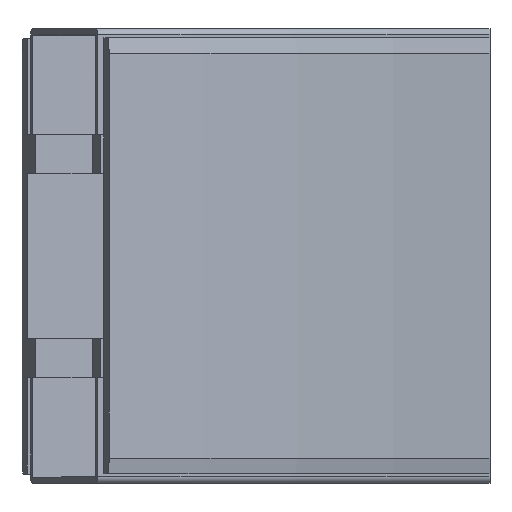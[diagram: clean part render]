
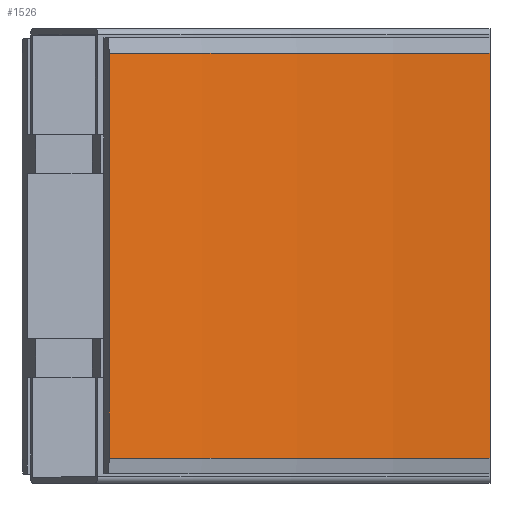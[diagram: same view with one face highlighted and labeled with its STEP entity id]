
A CAD part, top view. The second image highlights one B-rep face of the part: STEP entity #1526.
In plain terms, the highlighted cylindrical face has radius 357.5 mm (diameter 715 mm), a partial arc.
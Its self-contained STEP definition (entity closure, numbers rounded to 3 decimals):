
#80=CYLINDRICAL_SURFACE('',#1643,357.5);
#149=FACE_OUTER_BOUND('',#236,.T.);
#236=EDGE_LOOP('',(#1052,#1053,#1054,#1055));
#323=CIRCLE('',#1633,357.5);
#328=CIRCLE('',#1642,357.5);
#400=LINE('',#2215,#526);
#401=LINE('',#2216,#527);
#526=VECTOR('',#1808,10.);
#527=VECTOR('',#1809,10.);
#643=VERTEX_POINT('',#2183);
#644=VERTEX_POINT('',#2185);
#652=VERTEX_POINT('',#2209);
#653=VERTEX_POINT('',#2211);
#799=EDGE_CURVE('',#643,#644,#323,.T.);
#813=EDGE_CURVE('',#652,#653,#328,.T.);
#814=EDGE_CURVE('',#643,#652,#400,.T.);
#815=EDGE_CURVE('',#644,#653,#401,.T.);
#1052=ORIENTED_EDGE('',*,*,#814,.T.);
#1053=ORIENTED_EDGE('',*,*,#813,.T.);
#1054=ORIENTED_EDGE('',*,*,#815,.F.);
#1055=ORIENTED_EDGE('',*,*,#799,.F.);
#1526=ADVANCED_FACE('',(#149),#80,.F.);
#1633=AXIS2_PLACEMENT_3D('',#2186,#1777,#1778);
#1642=AXIS2_PLACEMENT_3D('',#2213,#1804,#1805);
#1643=AXIS2_PLACEMENT_3D('',#2214,#1806,#1807);
#1777=DIRECTION('center_axis',(0.,1.,0.));
#1778=DIRECTION('ref_axis',(0.,0.,
-1.));
#1804=DIRECTION('center_axis',(0.,1.,0.));
#1805=DIRECTION('ref_axis',(0.,0.,
-1.));
#1806=DIRECTION('center_axis',(0.,1.,0.));
#1807=DIRECTION('ref_axis',(0.,0.,-1.));
#1808=DIRECTION('',(0.,1.,0.));
#1809=DIRECTION('',(0.,1.,0.));
#2183=CARTESIAN_POINT('',(0.,-65.,42.5));
#2185=CARTESIAN_POINT('',(-122.272,-65.,64.06));
#2186=CARTESIAN_POINT('Origin',(0.,-65.,400.));
#2209=CARTESIAN_POINT('',(0.,65.,42.5));
#2211=CARTESIAN_POINT('',(-122.272,65.,64.06));
#2213=CARTESIAN_POINT('Origin',(0.,65.,400.));
#2214=CARTESIAN_POINT('Origin',(0.,0.,400.));
#2215=CARTESIAN_POINT('',(0.,-65.,42.5));
#2216=CARTESIAN_POINT('',(-122.272,-65.,64.06));
